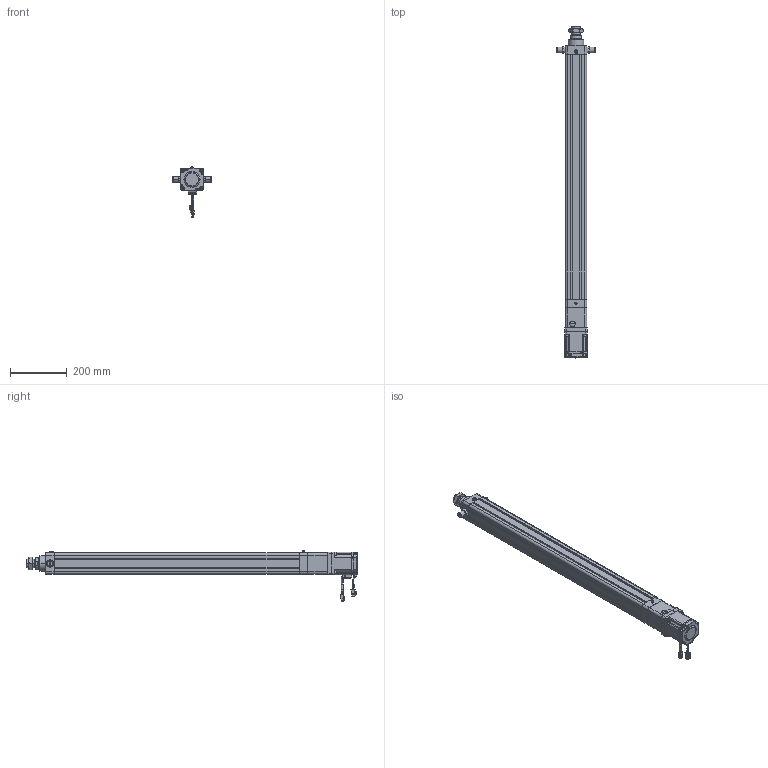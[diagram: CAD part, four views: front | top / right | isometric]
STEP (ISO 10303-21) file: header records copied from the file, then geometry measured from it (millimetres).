
FILE_DESCRIPTION((''),'2;1');
FILE_NAME('HE63-D-100-X1_ASM','2020-05-15T',('ASUS20200'),(''),'CREO PARAMETRIC BY PTC INC, 2014190','CREO PARAMETRIC BY PTC INC, 2014190','');
FILE_SCHEMA(('CONFIG_CONTROL_DESIGN'));
Length unit declared in the file: millimetre
Products named in the file (27): HE63-D-P-001-X1; HE63-D-P-002-X1; HE63-D-P-003-X1; LGLM-M8-22; HE63-D-009-X1; HE63-D-010-X1; M6X16; _MHMF082L1A2; _CABLE_MOTOR_BOTTOM_05; _CABLE_MOTOR_TOP_05; _MOTOR_CONNECTOR_2; _CABLE_BRAKE_BOTTOM_05; _CABLE_BRAKE_TOP_05; _MHMF_CONNECTOR_9_PIN_A6; MHMF082L1A2M2_1_ASM; SLM-01; YZ-M6X1; SKT-16; TD-6; JDB405030; JX6X6X25; HE63-D-P-005-X1; HE63-D-P-004-X1; HE63-D-P-008-X1; M6X25; HE63-TC; HE63-D-100-X1_ASM
Assembly tree (43 placements, depth 3):
  HE63-D-100-X1_ASM
    HE63-D-P-001-X1
    HE63-D-P-002-X1
    HE63-D-P-003-X1
    LGLM-M8-22  x8
    HE63-D-009-X1
    HE63-D-010-X1
    M6X16  x4
    MHMF082L1A2M2_1_ASM
      _MHMF082L1A2
      _CABLE_MOTOR_BOTTOM_05
      _CABLE_MOTOR_TOP_05
      _MOTOR_CONNECTOR_2
      _CABLE_BRAKE_BOTTOM_05
      _CABLE_BRAKE_TOP_05
      _MHMF_CONNECTOR_9_PIN_A6
    SLM-01
    YZ-M6X1
    SKT-16
    TD-6  x4
    JDB405030
    JX6X6X25
    HE63-D-P-005-X1
    HE63-D-P-004-X1
    HE63-D-P-008-X1
    M6X25  x4
    HE63-TC  x2
Bounding box: 135 x 1166.9 x 179.15 mm (x, y, z)
Volume: 3003916.5 mm3; surface area: 888566.9 mm2
Topology: 42 solids, 71 shells, 2530 faces, 6219 edges, 3905 vertices
Faces by surface type: plane 1057, cylinder 793, cone 507, torus 126, sphere 44, bspline 3
Entity records: 63632 total; most frequent: CARTESIAN_POINT 12067, DIRECTION 11367, ORIENTED_EDGE 10144, EDGE_CURVE 5125, AXIS2_PLACEMENT_3D 4281, VERTEX_POINT 3251, VECTOR 2805, LINE 2805
